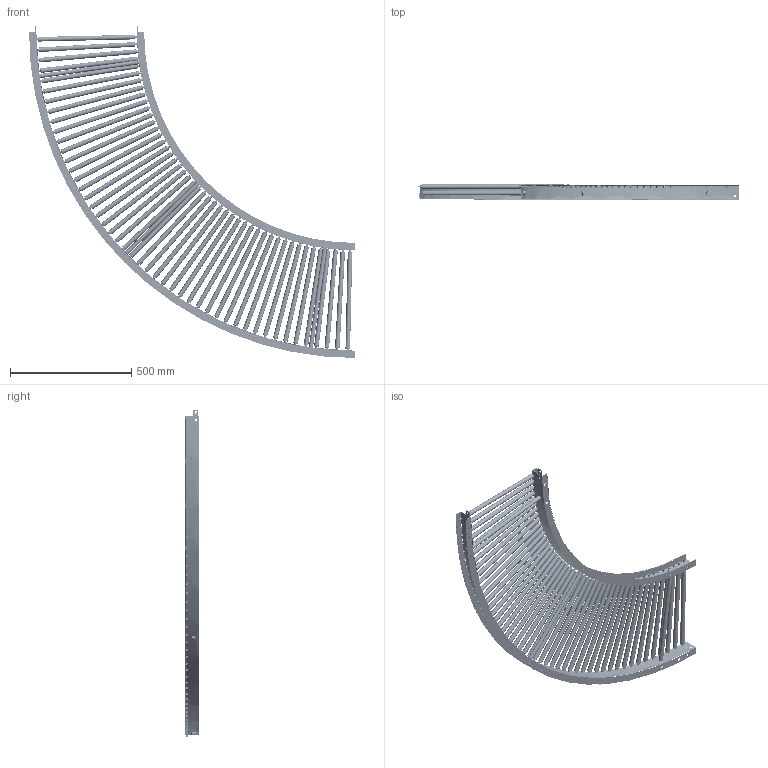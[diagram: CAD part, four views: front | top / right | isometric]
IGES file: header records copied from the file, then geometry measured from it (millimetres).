
Start section: SolidWorks IGES file using analytic representation for surfaces
Global section: file name: C:\Users\0656\Desktop\変換ツール\iges変換\RS-1912_C.igs; native system: SolidWorks 2023; preprocessor: SolidWorks 2023; author: 0656; date: 240315.112506; units: millimetre
Bounding box: 1345 x 61.55 x 1370.08 mm (x, y, z)
Surface area: 3151938.8 mm2 (no closed solid volume)
Topology: 0 solids, 0 shells, 1654 faces, 33008 edges, 33008 vertices
Faces by surface type: revolution 841, bspline 813
